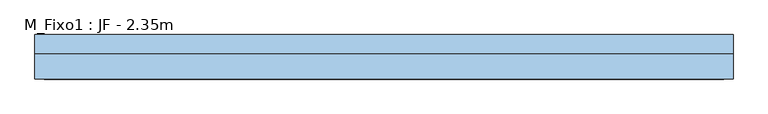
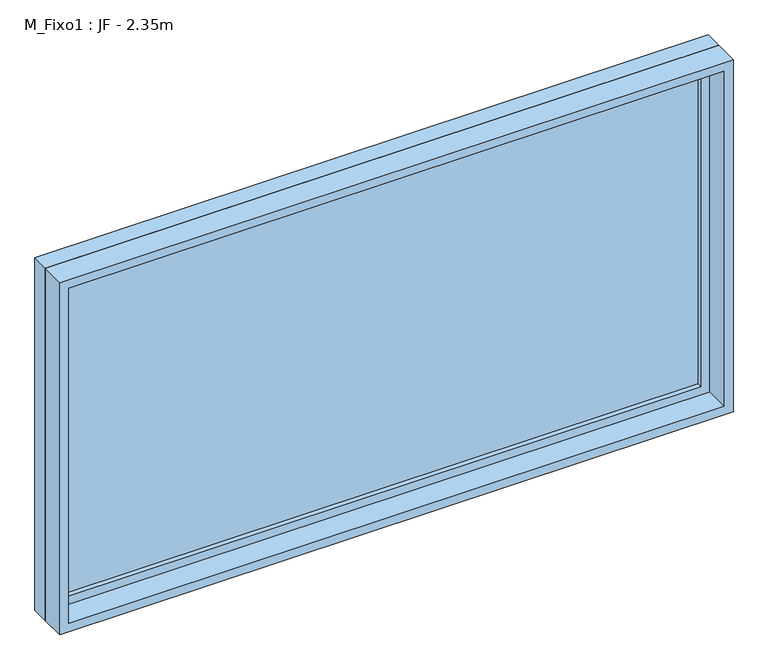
"""IFC4 building model written with IfcOpenShell, lengths in millimetres: window geometry, M_Fixo1 : JF - 2.35m."""

import ifcopenshell
import ifcopenshell.guid

model = None  # the IFC model being written
_history = None  # IfcOwnerHistory: only IFC2X3 demands one
_inside = {}  # id of a spatial element -> (the spatial element, [elements in it])
_under = {}  # id of a project, library or spatial element -> (it, [spatial elements below it])
_declared = {}  # id of a project -> (the project, [libraries it declares])
_typed = {}  # id of a type object -> (the type object, [elements of that type])
_made_of = {}  # id of a material, layer set ... -> (it, [elements and type objects made of it])


def new_model(schema):
    """Start an empty IFC model of exactly this schema.

    Asked for "IFC4X3", IfcOpenShell would pick the latest addendum, in which some entities
    have other attributes; the version numbers below select the first issue.
    IFC2X3 requires an IfcOwnerHistory on every rooted entity: one is made here for all.
    """
    global model, _history
    if schema == "IFC4X3":
        model = ifcopenshell.file(schema_version=(4, 3, 0, 0))
    else:
        model = ifcopenshell.file(schema=schema)
    _inside.clear()
    _under.clear()
    _declared.clear()
    _typed.clear()
    _made_of.clear()
    _history = None
    if model.schema == "IFC2X3":
        org = make("IfcOrganization", Name="unknown")
        user = make(
            "IfcPersonAndOrganization",
            ThePerson=make("IfcPerson", FamilyName="unknown"),
            TheOrganization=org,
        )
        app = make(
            "IfcApplication",
            ApplicationDeveloper=org,
            Version="unknown",
            ApplicationFullName="unknown",
            ApplicationIdentifier="unknown",
        )
        _history = make(
            "IfcOwnerHistory",
            OwningUser=user,
            OwningApplication=app,
            ChangeAction="ADDED",
            CreationDate=0,
        )
    return model


def make(cls, **values):
    """One entity of the class cls with the attributes given. An attribute that is None is left unset."""
    return model.create_entity(
        cls, **{name: value for name, value in values.items() if value is not None}
    )


def rooted(cls, **values):
    """An entity with a GlobalId (a new one), such as an element, a storey or a relation."""
    return make(cls, GlobalId=ifcopenshell.guid.new(), OwnerHistory=_history, **values)


def si_unit(unit_type, name, prefix=None):
    """IfcSIUnit, for example si_unit("LENGTHUNIT", "METRE", prefix="MILLI")."""
    return make("IfcSIUnit", UnitType=unit_type, Prefix=prefix, Name=name)


def assignment(units):
    """IfcUnitAssignment: the units of a project."""
    return None if units is None else make("IfcUnitAssignment", Units=units)


def point(xyz):
    """IfcCartesianPoint."""
    return None if xyz is None else make("IfcCartesianPoint", Coordinates=xyz)


def direction(xyz):
    """IfcDirection."""
    return None if xyz is None else make("IfcDirection", DirectionRatios=xyz)


def frame(location, z_axis=None, x_axis=None):
    """IfcAxis2Placement3D, a coordinate frame: its origin and axes. An axis left out is left unset."""
    return make(
        "IfcAxis2Placement3D",
        Location=point(location),
        Axis=direction(z_axis),
        RefDirection=direction(x_axis),
    )


def origin():
    """The frame at (0, 0, 0) with its axes left unset."""
    return frame((0.0, 0.0, 0.0))


def place(relative_to, where):
    """IfcLocalPlacement: puts the frame where relative to a parent placement (None: the world)."""
    return make(
        "IfcLocalPlacement", PlacementRelTo=relative_to, RelativePlacement=where
    )


def context(
    kind, dimensions, precision=None, world=None, true_north=None, identifier=None
):
    """IfcGeometricRepresentationContext, for example the 3D "Model" context."""
    return make(
        "IfcGeometricRepresentationContext",
        ContextIdentifier=identifier,
        ContextType=kind,
        CoordinateSpaceDimension=dimensions,
        Precision=precision,
        WorldCoordinateSystem=world,
        TrueNorth=true_north,
    )


def project(units=None, contexts=None):
    """IfcProject with its units and contexts."""
    return rooted(
        "IfcProject",
        Name="project",
        RepresentationContexts=contexts,
        UnitsInContext=assignment(units),
    )


def spatial(cls, under=None, at=None, **own):
    """A site, building, storey or space (cls), placed at a placement, below another one or the project."""
    s = rooted(cls, ObjectPlacement=at, **own)
    if under is not None:
        _under.setdefault(under.id(), (under, []))[1].append(s)
    return s


def polyline(points):
    """IfcPolyline through the points."""
    return make("IfcPolyline", Points=[point(p) for p in points])


def outline(outer, holes=None, kind="AREA"):
    """IfcArbitraryClosedProfileDef: a profile drawn as a closed curve; with holes, ...WithVoids."""
    if holes is None:
        return make("IfcArbitraryClosedProfileDef", ProfileType=kind, OuterCurve=outer)
    return make(
        "IfcArbitraryProfileDefWithVoids",
        ProfileType=kind,
        OuterCurve=outer,
        InnerCurves=holes,
    )


def extrude(swept, where, along, depth):
    """IfcExtrudedAreaSolid: the profile swept, set in the frame where, extruded along a direction by depth."""
    return make(
        "IfcExtrudedAreaSolid",
        SweptArea=swept,
        Position=where,
        ExtrudedDirection=direction(along),
        Depth=depth,
    )


def shape(context_of_items, identifier, shape_type, items):
    """IfcShapeRepresentation: the items that make up one representation, for example the "Body"."""
    return make(
        "IfcShapeRepresentation",
        ContextOfItems=context_of_items,
        RepresentationIdentifier=identifier,
        RepresentationType=shape_type,
        Items=items,
    )


def source(mapping_origin, context_of_items, identifier, shape_type, items):
    """IfcRepresentationMap: a shape defined once, which mapped items show again and again."""
    return make(
        "IfcRepresentationMap",
        MappingOrigin=mapping_origin,
        MappedRepresentation=shape(context_of_items, identifier, shape_type, items),
    )


def transform(
    local_origin,
    x_axis=None,
    y_axis=None,
    z_axis=None,
    scale=None,
    scale2=None,
    scale3=None,
    uniform=True,
):
    """IfcCartesianTransformationOperator3D, or its non-uniform kind. x_axis, y_axis, z_axis: its Axis1, 2, 3."""
    if uniform:
        return make(
            "IfcCartesianTransformationOperator3D",
            Axis1=direction(x_axis),
            Axis2=direction(y_axis),
            LocalOrigin=point(local_origin),
            Scale=scale,
            Axis3=direction(z_axis),
        )
    return make(
        "IfcCartesianTransformationOperator3DnonUniform",
        Axis1=direction(x_axis),
        Axis2=direction(y_axis),
        LocalOrigin=point(local_origin),
        Scale=scale,
        Axis3=direction(z_axis),
        Scale2=scale2,
        Scale3=scale3,
    )


def mapped(mapping_source, mapping_target):
    """IfcMappedItem: shows the shape of a source again, moved by a transform."""
    return make(
        "IfcMappedItem", MappingSource=mapping_source, MappingTarget=mapping_target
    )


def made_of(thing, what):
    """Note that an element or type object is made of a material, layer set ...; save() writes the relation."""
    if what is not None:
        _made_of.setdefault(what.id(), (what, []))[1].append(thing)
    return thing


def element(
    cls,
    number,
    at=None,
    inside=None,
    cuts=None,
    type_object=None,
    material=None,
    context=None,
    identifier="Body",
    shape_type=None,
    held_by="IfcProductDefinitionShape",
    body=None,
    shapes=None,
    **own,
):
    """One element of the class cls, such as IfcWall. Its Tag is "e" and its number.

    at: its placement. inside: the storey or other place that contains it. cuts: it is an
    opening in that element (IfcRelVoidsElement). A single representation is given by context,
    identifier, shape_type and body (its items); several are given by shapes. held_by: the class
    of the entity that holds the representations. save() writes the other relations.
    """
    e = rooted(cls, Tag="e%d" % number, ObjectPlacement=at, **own)
    if body is not None:
        shapes = [shape(context, identifier, shape_type, body)]
    if shapes is not None:
        e.Representation = make(held_by, Representations=shapes)
    if inside is not None:
        _inside.setdefault(inside.id(), (inside, []))[1].append(e)
    if cuts is not None:
        rooted(
            "IfcRelVoidsElement", RelatingBuildingElement=cuts, RelatedOpeningElement=e
        )
    if type_object is not None:
        _typed.setdefault(type_object.id(), (type_object, []))[1].append(e)
    return made_of(e, material)


def aggregate(whole, parts):
    """IfcRelAggregates: a whole, such as a stair, and the parts it consists of."""
    return rooted("IfcRelAggregates", RelatingObject=whole, RelatedObjects=parts)


def save(model, path):
    """Write the relations noted so far, then the file.

    IfcRelAggregates (storeys below a building ...), IfcRelContainedInSpatialStructure (elements
    in a storey), IfcRelDefinesByType, IfcRelAssociatesMaterial and IfcRelDeclares: one each for
    every whole, place, type object, material and project.
    """
    for whole, parts in _under.values():
        aggregate(whole, parts)
    for where, things in _inside.values():
        rooted(
            "IfcRelContainedInSpatialStructure",
            RelatedElements=things,
            RelatingStructure=where,
        )
    for kind, things in _typed.values():
        rooted("IfcRelDefinesByType", RelatedObjects=things, RelatingType=kind)
    for what, things in _made_of.values():
        rooted("IfcRelAssociatesMaterial", RelatedObjects=things, RelatingMaterial=what)
    for by, libraries in _declared.values():
        rooted("IfcRelDeclares", RelatingContext=by, RelatedDefinitions=libraries)
    model.write(path)


def m_fixo1_jf_2_35m_2763504e(model_context):
    return source(origin(), model_context, "Body", "SweptSolid", [
        extrude(outline(polyline([(-1112.0, 53.0), (1112.0, 53.0), (1112.0, 41.0), (-1112.0, 41.0), (-1112.0, 53.0)])), frame((0.0, 0.0, 978.0), z_axis=(0.0, 0.0, 1.0), x_axis=(1.0, 0.0, 0.0)), (0.0, 0.0, 1.0), 1174.0),
        extrude(outline(polyline([(2196.0, -1156.0), (934.0, -1156.0), (934.0, 1156.0), (2196.0, 1156.0), (2196.0, -1156.0)]), holes=[polyline([(2152.0, -1112.0), (2152.0, 1112.0), (978.0, 1112.0), (978.0, -1112.0), (2152.0, -1112.0)])]), frame((0.0, 25.0, 0.0), z_axis=(0.0, 1.0, 0.0), x_axis=(0.0, 0.0, 1.0)), (0.0, 0.0, 1.0), 44.0),
        extrude(outline(polyline([(2215.0, -1175.0), (915.0, -1175.0), (915.0, 1175.0), (2215.0, 1175.0), (2215.0, -1175.0)]), holes=[polyline([(2196.0, -1156.0), (2196.0, 1156.0), (934.0, 1156.0), (934.0, -1156.0), (2196.0, -1156.0)])]), frame((0.0, 25.0, 0.0), z_axis=(0.0, 1.0, 0.0), x_axis=(0.0, 0.0, 1.0)), (0.0, 0.0, 1.0), 63.0),
        extrude(outline(polyline([(2215.0, -1175.0), (915.0, -1175.0), (915.0, 1175.0), (2215.0, 1175.0), (2215.0, -1175.0)]), holes=[polyline([(2183.0, -1143.0), (2183.0, 1143.0), (947.0, 1143.0), (947.0, -1143.0), (2183.0, -1143.0)])]), frame((0.0, -62.0, 0.0), z_axis=(0.0, 1.0, 0.0), x_axis=(0.0, 0.0, 1.0)), (0.0, 0.0, 1.0), 87.0),
    ])


if __name__ == "__main__":
    model = new_model("IFC4")
    model_context = context("Model", 3, world=origin())
    ifc_project = project(units=[si_unit("LENGTHUNIT", "METRE", prefix="MILLI")], contexts=[model_context])
    site = spatial("IfcSite", under=ifc_project)
    building = spatial("IfcBuilding", under=site)
    placement = place(None, origin())
    m_fixo1_jf_2_35m_shape = m_fixo1_jf_2_35m_2763504e(model_context)
    element("IfcWindow", 1, ObjectType="M_Fixo1 : JF - 2.35m", at=placement, inside=building, context=model_context, shape_type="MappedRepresentation", body=[
        mapped(m_fixo1_jf_2_35m_shape, transform((0.0, 0.0, 0.0), x_axis=(1.0, 0.0, 0.0), y_axis=(0.0, 1.0, 0.0), z_axis=(0.0, 0.0, 1.0))),
    ])
    save(model, "model.ifc")
